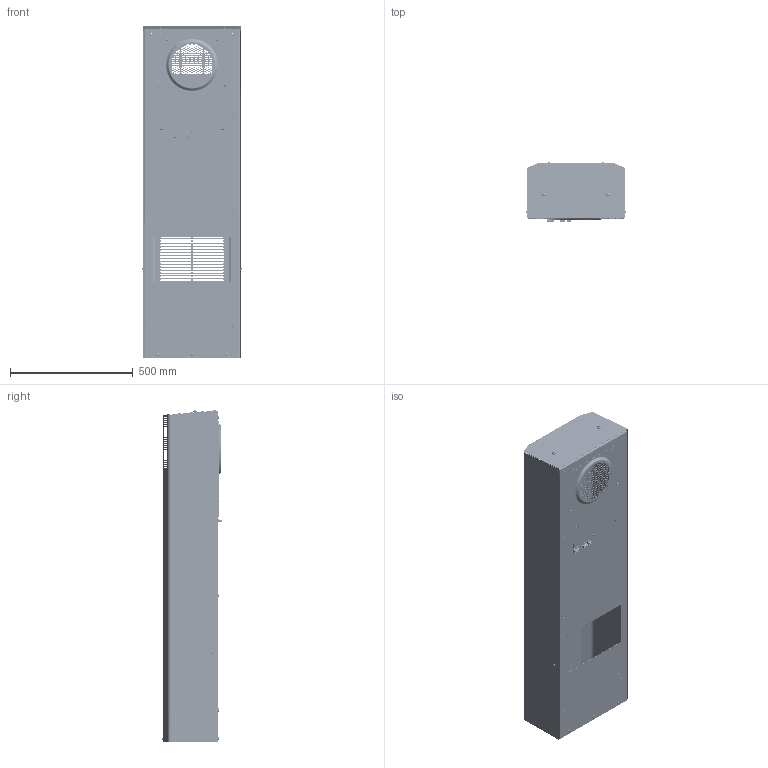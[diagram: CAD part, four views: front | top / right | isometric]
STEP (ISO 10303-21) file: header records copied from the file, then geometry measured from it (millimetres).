
FILE_DESCRIPTION (( 'STEP AP203' ), '1' );
FILE_NAME ('60054-101.STEP', '2016-11-23T06:48:50', ( '' ), ( '' ), 'SwSTEP 2.0', 'SolidWorks 2015', '' );
FILE_SCHEMA (( 'CONFIG_CONTROL_DESIGN' ));
Products named in the file (1): 60054-101
Bounding box: 407.84 x 242.45 x 1350 mm (x, y, z)
Volume: 2141461.9 mm3; surface area: 4037666.9 mm2
Topology: 24 solids, 24 shells, 5029 faces, 13926 edges, 9089 vertices
Faces by surface type: plane 2647, cylinder 1728, bspline 348, cone 200, torus 60, sphere 46
Entity records: 181399 total; most frequent: CARTESIAN_POINT 49979, ORIENTED_EDGE 27698, DIRECTION 26410, EDGE_CURVE 13849, VERTEX_POINT 9080, AXIS2_PLACEMENT_3D 8941, LINE 8528, VECTOR 8528
